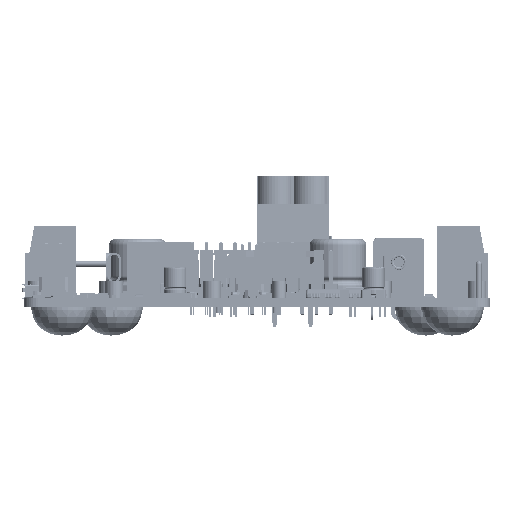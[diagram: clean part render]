
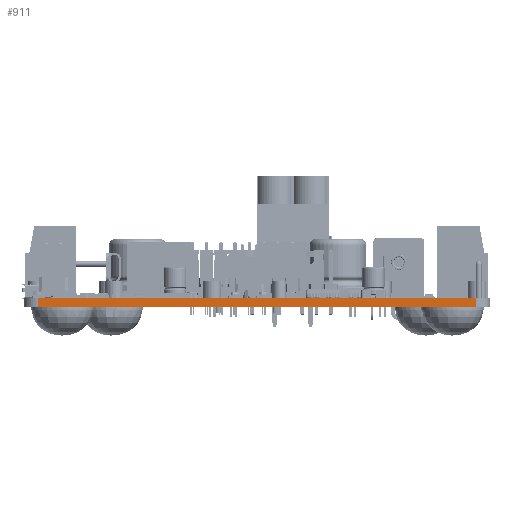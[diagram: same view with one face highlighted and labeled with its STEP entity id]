
A CAD part, left-side view. The second image highlights one B-rep face of the part: STEP entity #911.
In plain terms, the highlighted planar face has unit normal (-1, 0, 0).
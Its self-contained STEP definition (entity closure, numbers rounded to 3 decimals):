
#884 = VERTEX_POINT('',#885);
#885 = CARTESIAN_POINT('',(0.,2.54,1.575));
#892 = EDGE_CURVE('',#893,#884,#895,.T.);
#893 = VERTEX_POINT('',#894);
#894 = CARTESIAN_POINT('',(0.,2.54,0.));
#895 = LINE('',#896,#897);
#896 = CARTESIAN_POINT('',(0.,2.54,0.));
#897 = VECTOR('',#898,1.);
#898 = DIRECTION('',(0.,0.,1.));
#911 = ADVANCED_FACE('',(#912),#937,.T.);
#912 = FACE_BOUND('',#913,.T.);
#913 = EDGE_LOOP('',(#914,#915,#923,#931));
#914 = ORIENTED_EDGE('',*,*,#892,.T.);
#915 = ORIENTED_EDGE('',*,*,#916,.T.);
#916 = EDGE_CURVE('',#884,#917,#919,.T.);
#917 = VERTEX_POINT('',#918);
#918 = CARTESIAN_POINT('',(0.,80.01,1.575));
#919 = LINE('',#920,#921);
#920 = CARTESIAN_POINT('',(0.,2.54,1.575));
#921 = VECTOR('',#922,1.);
#922 = DIRECTION('',(0.,1.,0.));
#923 = ORIENTED_EDGE('',*,*,#924,.F.);
#924 = EDGE_CURVE('',#925,#917,#927,.T.);
#925 = VERTEX_POINT('',#926);
#926 = CARTESIAN_POINT('',(0.,80.01,0.));
#927 = LINE('',#928,#929);
#928 = CARTESIAN_POINT('',(0.,80.01,0.));
#929 = VECTOR('',#930,1.);
#930 = DIRECTION('',(0.,0.,1.));
#931 = ORIENTED_EDGE('',*,*,#932,.F.);
#932 = EDGE_CURVE('',#893,#925,#933,.T.);
#933 = LINE('',#934,#935);
#934 = CARTESIAN_POINT('',(0.,2.54,0.));
#935 = VECTOR('',#936,1.);
#936 = DIRECTION('',(0.,1.,0.));
#937 = PLANE('',#938);
#938 = AXIS2_PLACEMENT_3D('',#939,#940,#941);
#939 = CARTESIAN_POINT('',(0.,2.54,0.));
#940 = DIRECTION('',(-1.,0.,0.));
#941 = DIRECTION('',(0.,1.,0.));
